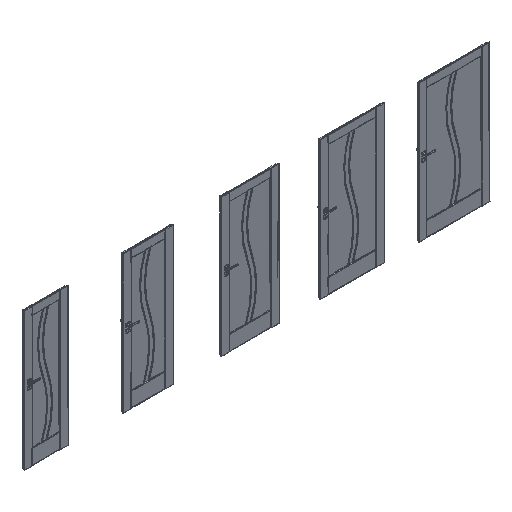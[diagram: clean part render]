
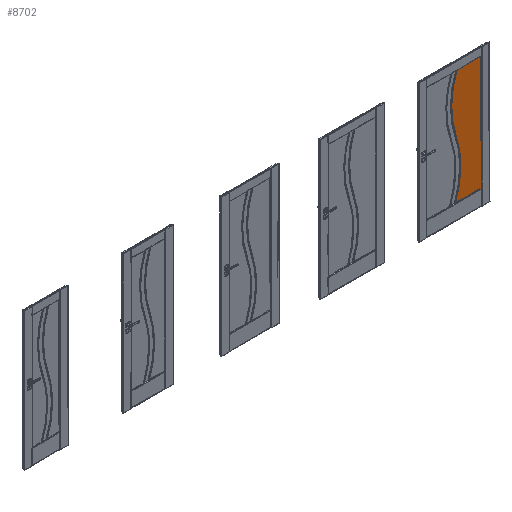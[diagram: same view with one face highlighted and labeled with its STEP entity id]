
A CAD part, isometric view. The second image highlights one B-rep face of the part: STEP entity #8702.
In plain terms, the highlighted planar face has unit normal (0, -1, 0).
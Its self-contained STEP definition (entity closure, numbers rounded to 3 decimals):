
#5584=CIRCLE('',#58392,1260.);
#5663=CIRCLE('',#58528,1270.);
#8702=ADVANCED_FACE('',(#13201),#10490,.T.);
#10490=PLANE('',#58529);
#13201=FACE_OUTER_BOUND('',#16253,.T.);
#16253=EDGE_LOOP('',(#30114,#30115,#30116,#30117,#30118,#30119,#30120,#30121,
#30122));
#30114=ORIENTED_EDGE('',*,*,#44380,.T.);
#30115=ORIENTED_EDGE('',*,*,#44381,.F.);
#30116=ORIENTED_EDGE('',*,*,#44105,.T.);
#30117=ORIENTED_EDGE('',*,*,#44382,.T.);
#30118=ORIENTED_EDGE('',*,*,#44383,.T.);
#30119=ORIENTED_EDGE('',*,*,#44384,.T.);
#30120=ORIENTED_EDGE('',*,*,#44373,.T.);
#30121=ORIENTED_EDGE('',*,*,#44385,.T.);
#30122=ORIENTED_EDGE('',*,*,#44379,.T.);
#36690=VERTEX_POINT('',#99104);
#36692=VERTEX_POINT('',#99108);
#36901=VERTEX_POINT('',#99921);
#36902=VERTEX_POINT('',#99923);
#36903=VERTEX_POINT('',#99927);
#36907=VERTEX_POINT('',#99934);
#36908=VERTEX_POINT('',#99938);
#36909=VERTEX_POINT('',#99941);
#36910=VERTEX_POINT('',#99943);
#44105=EDGE_CURVE('',#36690,#36692,#5584,.T.);
#44373=EDGE_CURVE('',#36902,#36901,#49108,.T.);
#44379=EDGE_CURVE('',#36903,#36907,#49113,.T.);
#44380=EDGE_CURVE('',#36907,#36908,#49114,.T.);
#44381=EDGE_CURVE('',#36690,#36908,#49115,.T.);
#44382=EDGE_CURVE('',#36692,#36909,#5663,.T.);
#44383=EDGE_CURVE('',#36909,#36910,#49116,.T.);
#44384=EDGE_CURVE('',#36910,#36902,#49117,.T.);
#44385=EDGE_CURVE('',#36901,#36903,#49118,.T.);
#49108=LINE('',#99922,#53343);
#49113=LINE('',#99935,#53348);
#49114=LINE('',#99937,#53349);
#49115=LINE('',#99939,#53350);
#49116=LINE('',#99942,#53351);
#49117=LINE('',#99944,#53352);
#49118=LINE('',#99945,#53353);
#53343=VECTOR('',#72167,1.);
#53348=VECTOR('',#72176,1.);
#53349=VECTOR('',#72179,1.);
#53350=VECTOR('',#72180,1.);
#53351=VECTOR('',#72183,1.);
#53352=VECTOR('',#72184,1.);
#53353=VECTOR('',#72185,1.);
#58392=AXIS2_PLACEMENT_3D('',#99109,#71739,#71740);
#58528=AXIS2_PLACEMENT_3D('',#99940,#72181,#72182);
#58529=AXIS2_PLACEMENT_3D('',#99946,#72186,#72187);
#71739=DIRECTION('',(0.,-1.,0.));
#71740=DIRECTION('',(0.,0.,-1.));
#72167=DIRECTION('',(1.,0.,0.));
#72176=DIRECTION('',(-1.,0.,0.));
#72179=DIRECTION('',(0.,0.,-1.));
#72180=DIRECTION('',(1.,0.,0.));
#72181=DIRECTION('',(0.,1.,0.));
#72182=DIRECTION('',(0.,0.,-1.));
#72183=DIRECTION('',(1.,0.,0.));
#72184=DIRECTION('',(0.,0.,-1.));
#72185=DIRECTION('',(0.,0.,1.));
#72186=DIRECTION('',(0.,-1.,0.));
#72187=DIRECTION('',(0.,0.,-1.));
#99104=CARTESIAN_POINT('',(6049.336,-26.15,1912.));
#99108=CARTESIAN_POINT('',(6035.735,-26.15,1064.107));
#99109=CARTESIAN_POINT('',(7228.9,-26.15,1469.023));
#99921=CARTESIAN_POINT('',(6404.,-26.15,206.5));
#99922=CARTESIAN_POINT('',(7428.9,-26.15,206.5));
#99923=CARTESIAN_POINT('',(6403.5,-26.15,206.5));
#99927=CARTESIAN_POINT('',(6404.,-26.15,1918.5));
#99934=CARTESIAN_POINT('',(6403.5,-26.15,1918.5));
#99935=CARTESIAN_POINT('',(7428.9,-26.15,1918.5));
#99937=CARTESIAN_POINT('',(6403.5,-26.15,1912.));
#99938=CARTESIAN_POINT('',(6403.5,-26.15,1912.));
#99939=CARTESIAN_POINT('',(4965.,-26.15,1912.));
#99940=CARTESIAN_POINT('',(4833.1,-26.15,655.977));
#99941=CARTESIAN_POINT('',(6025.922,-26.15,220.));
#99942=CARTESIAN_POINT('',(7228.9,-26.15,220.));
#99943=CARTESIAN_POINT('',(6403.5,-26.15,220.));
#99944=CARTESIAN_POINT('',(6403.5,-26.15,1469.023));
#99945=CARTESIAN_POINT('',(6404.,-26.15,0.));
#99946=CARTESIAN_POINT('',(7228.9,-26.15,1469.023));
